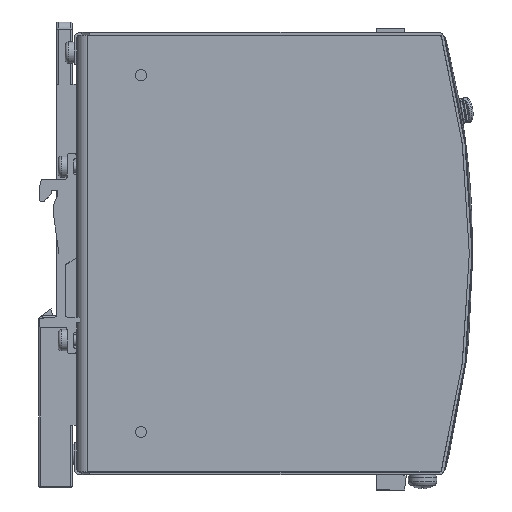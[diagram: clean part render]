
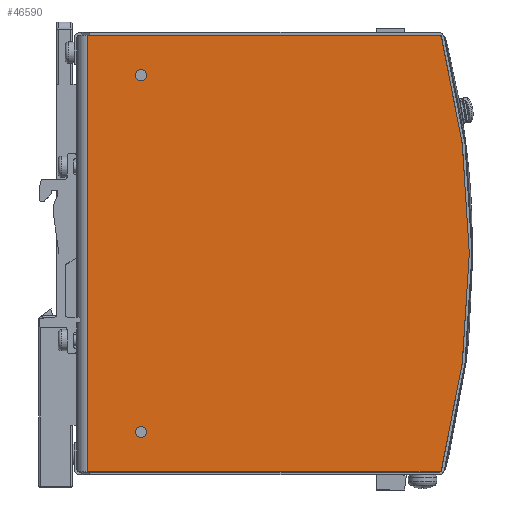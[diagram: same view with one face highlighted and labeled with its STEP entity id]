
A CAD part, front view. The second image highlights one B-rep face of the part: STEP entity #46590.
In plain terms, the highlighted planar face has unit normal (0, -1, 0).
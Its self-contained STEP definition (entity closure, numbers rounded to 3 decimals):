
#1221=LINE('',#63785,#6878);
#1228=LINE('',#63809,#6885);
#1230=LINE('',#63814,#6887);
#6878=VECTOR('',#52104,99.079);
#6885=VECTOR('',#52131,122.3);
#6887=VECTOR('',#52137,99.079);
#12519=PLANE('',#49053);
#14486=FACE_BOUND('',#17682,.T.);
#14487=FACE_BOUND('',#17683,.T.);
#15247=FACE_OUTER_BOUND('',#17681,.T.);
#17681=EDGE_LOOP('',(#32852,#32853,#32854,#32855));
#17682=EDGE_LOOP('',(#32856));
#17683=EDGE_LOOP('',(#32857));
#20835=CIRCLE('',#49017,1.6);
#20837=CIRCLE('',#49020,1.6);
#20842=CIRCLE('',#49032,240.);
#21472=VERTEX_POINT('',#63705);
#21474=VERTEX_POINT('',#63710);
#21487=VERTEX_POINT('',#63747);
#21488=VERTEX_POINT('',#63748);
#21502=VERTEX_POINT('',#63784);
#21509=VERTEX_POINT('',#63808);
#25988=EDGE_CURVE('',#21472,#21472,#20835,.T.);
#25990=EDGE_CURVE('',#21474,#21474,#20837,.T.);
#26007=EDGE_CURVE('',#21487,#21488,#20842,.T.);
#26025=EDGE_CURVE('',#21487,#21502,#1221,.T.);
#26037=EDGE_CURVE('',#21509,#21502,#1228,.T.);
#26040=EDGE_CURVE('',#21488,#21509,#1230,.T.);
#32852=ORIENTED_EDGE('',*,*,#26007,.T.);
#32853=ORIENTED_EDGE('',*,*,#26040,.T.);
#32854=ORIENTED_EDGE('',*,*,#26037,.T.);
#32855=ORIENTED_EDGE('',*,*,#26025,.F.);
#32856=ORIENTED_EDGE('',*,*,#25988,.T.);
#32857=ORIENTED_EDGE('',*,*,#25990,.T.);
#46590=ADVANCED_FACE('',(#15247,#14486,#14487),#12519,.T.);
#49017=AXIS2_PLACEMENT_3D('',#63706,#52030,#52031);
#49020=AXIS2_PLACEMENT_3D('',#63711,#52036,#52037);
#49032=AXIS2_PLACEMENT_3D('',#63749,#52072,#52073);
#49053=AXIS2_PLACEMENT_3D('',#63813,#52135,#52136);
#52030=DIRECTION('center_axis',(0.,1.,0.));
#52031=DIRECTION('ref_axis',(-1.,0.,0.));
#52036=DIRECTION('center_axis',(0.,1.,0.));
#52037=DIRECTION('ref_axis',(-1.,0.,0.));
#52072=DIRECTION('center_axis',(0.,-1.,0.));
#52073=DIRECTION('ref_axis',(-0.967,0.,-0.255));
#52104=DIRECTION('',(-1.,0.,0.));
#52131=DIRECTION('',(0.,0.,-1.));
#52135=DIRECTION('center_axis',(0.,-1.,0.));
#52136=DIRECTION('ref_axis',(0.,0.,-1.));
#52137=DIRECTION('',(-1.,0.,0.));
#63705=CARTESIAN_POINT('',(19.6,-19.5,50.));
#63706=CARTESIAN_POINT('Origin',(18.,-19.5,50.));
#63710=CARTESIAN_POINT('',(19.6,-19.5,-50.));
#63711=CARTESIAN_POINT('Origin',(18.,-19.5,-50.));
#63747=CARTESIAN_POINT('',(102.079,-19.5,-61.15));
#63748=CARTESIAN_POINT('',(102.079,-19.5,61.15));
#63749=CARTESIAN_POINT('Origin',(-130.,-19.5,0.));
#63784=CARTESIAN_POINT('',(3.,-19.5,-61.15));
#63785=CARTESIAN_POINT('',(130.,-19.5,-61.15));
#63808=CARTESIAN_POINT('',(3.,-19.5,61.15));
#63809=CARTESIAN_POINT('',(3.,-19.5,-61.15));
#63813=CARTESIAN_POINT('Origin',(130.,-19.5,-61.15));
#63814=CARTESIAN_POINT('',(130.,-19.5,61.15));
